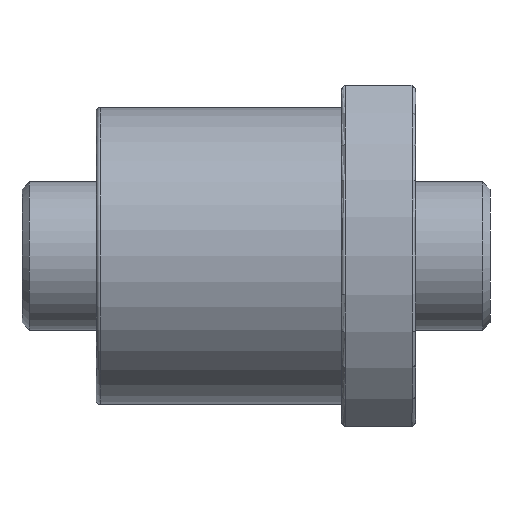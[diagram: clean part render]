
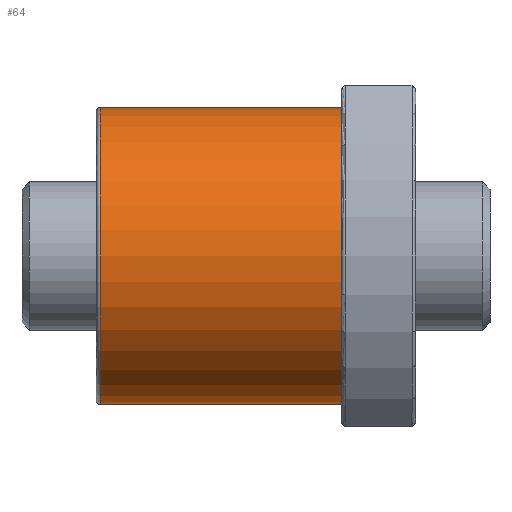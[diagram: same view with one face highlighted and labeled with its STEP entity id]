
A CAD part, front view. The second image highlights one B-rep face of the part: STEP entity #64.
In plain terms, the highlighted cylindrical face has radius 20 mm (diameter 40 mm), a partial arc.
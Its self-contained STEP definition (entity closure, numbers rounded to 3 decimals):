
#64 = ADVANCED_FACE ( 'NONE', ( #3234 ), #4097, .T. ) ;
#91 = EDGE_CURVE ( 'NONE', #2467, #3467, #3805, .T. ) ;
#196 = EDGE_CURVE ( 'NONE', #2450, #3467, #3993, .T. ) ;
#234 = DIRECTION ( 'NONE',  ( 0., 0., -1. ) ) ;
#311 = ORIENTED_EDGE ( 'NONE', *, *, #4029, .T. ) ;
#332 = DIRECTION ( 'NONE',  ( -1., 0., 0. ) ) ;
#814 = AXIS2_PLACEMENT_3D ( 'NONE', #3346, #1457, #3426 ) ;
#842 = EDGE_CURVE ( 'NONE', #2467, #1719, #3384, .T. ) ;
#944 = ORIENTED_EDGE ( 'NONE', *, *, #842, .T. ) ;
#1457 = DIRECTION ( 'NONE',  ( 1., 0., 0. ) ) ;
#1585 = CARTESIAN_POINT ( 'NONE',  ( 0., 0., 20. ) ) ;
#1597 = DIRECTION ( 'NONE',  ( 1., 0., 0. ) ) ;
#1719 = VERTEX_POINT ( 'NONE', #4081 ) ;
#1805 = DIRECTION ( 'NONE',  ( 1., 0., 0. ) ) ;
#2363 = EDGE_LOOP ( 'NONE', ( #2993, #944, #311, #2615 ) ) ;
#2450 = VERTEX_POINT ( 'NONE', #3662 ) ;
#2467 = VERTEX_POINT ( 'NONE', #3689 ) ;
#2513 = VECTOR ( 'NONE', #1597, 1000. ) ;
#2615 = ORIENTED_EDGE ( 'NONE', *, *, #196, .T. ) ;
#2708 = CARTESIAN_POINT ( 'NONE',  ( -33., 0., 0. ) ) ;
#2795 = CARTESIAN_POINT ( 'NONE',  ( -33., 0., 20. ) ) ;
#2902 = LINE ( 'NONE', #3874, #2513 ) ;
#2917 = AXIS2_PLACEMENT_3D ( 'NONE', #2708, #1805, #234 ) ;
#2993 = ORIENTED_EDGE ( 'NONE', *, *, #91, .F. ) ;
#3200 = DIRECTION ( 'NONE',  ( 0., 0., -1. ) ) ;
#3234 = FACE_OUTER_BOUND ( 'NONE', #2363, .T. ) ;
#3327 = VECTOR ( 'NONE', #3759, 1000. ) ;
#3346 = CARTESIAN_POINT ( 'NONE',  ( -32.5, 0., 0. ) ) ;
#3384 = CIRCLE ( 'NONE', #814, 20. ) ;
#3426 = DIRECTION ( 'NONE',  ( 0., 0., 1. ) ) ;
#3467 = VERTEX_POINT ( 'NONE', #1585 ) ;
#3511 = CARTESIAN_POINT ( 'NONE',  ( 0., 0., 0. ) ) ;
#3584 = AXIS2_PLACEMENT_3D ( 'NONE', #3511, #332, #3200 ) ;
#3662 = CARTESIAN_POINT ( 'NONE',  ( 0., 0., -20. ) ) ;
#3689 = CARTESIAN_POINT ( 'NONE',  ( -32.5, 0., 20. ) ) ;
#3759 = DIRECTION ( 'NONE',  ( 1., 0., 0. ) ) ;
#3805 = LINE ( 'NONE', #2795, #3327 ) ;
#3874 = CARTESIAN_POINT ( 'NONE',  ( -33., 0., -20. ) ) ;
#3993 = CIRCLE ( 'NONE', #3584, 20. ) ;
#4029 = EDGE_CURVE ( 'NONE', #1719, #2450, #2902, .T. ) ;
#4081 = CARTESIAN_POINT ( 'NONE',  ( -32.5, 0., -20. ) ) ;
#4097 = CYLINDRICAL_SURFACE ( 'NONE', #2917, 20. ) ;
